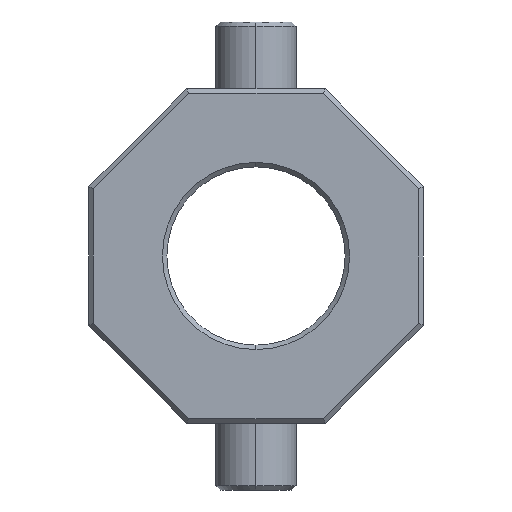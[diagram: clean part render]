
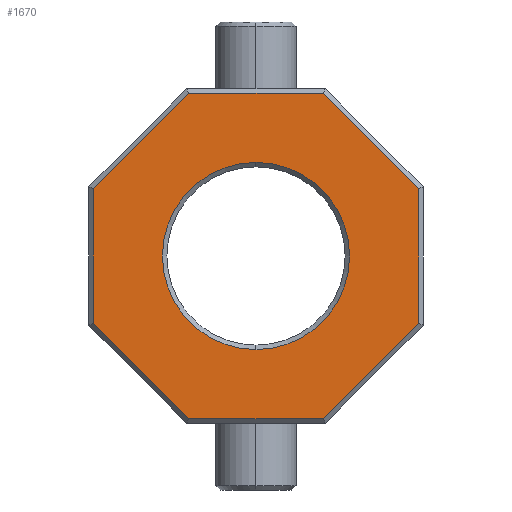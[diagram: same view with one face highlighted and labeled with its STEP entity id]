
A CAD part, left-side view. The second image highlights one B-rep face of the part: STEP entity #1670.
In plain terms, the highlighted planar face has unit normal (-1, 0, 0).
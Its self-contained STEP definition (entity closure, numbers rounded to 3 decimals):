
#5 = FACE_OUTER_BOUND ( 'NONE', #647, .T. ) ;
#14 = VECTOR ( 'NONE', #2017, 1000. ) ;
#35 = VERTEX_POINT ( 'NONE', #1802 ) ;
#45 = VERTEX_POINT ( 'NONE', #64 ) ;
#61 = DIRECTION ( 'NONE',  ( 1., 0., 0. ) ) ;
#64 = CARTESIAN_POINT ( 'NONE',  ( -12.5, -36.5, 15.119 ) ) ;
#83 = AXIS2_PLACEMENT_3D ( 'NONE', #163, #812, #823 ) ;
#118 = EDGE_CURVE ( 'NONE', #1747, #878, #1231, .T. ) ;
#122 = VERTEX_POINT ( 'NONE', #1378 ) ;
#149 = DIRECTION ( 'NONE',  ( 0., -0.707, -0.707 ) ) ;
#163 = CARTESIAN_POINT ( 'NONE',  ( -12.5, 0., 0. ) ) ;
#213 = ORIENTED_EDGE ( 'NONE', *, *, #1218, .T. ) ;
#230 = ORIENTED_EDGE ( 'NONE', *, *, #458, .T. ) ;
#298 = CARTESIAN_POINT ( 'NONE',  ( -12.5, 14.826, -36.793 ) ) ;
#309 = EDGE_CURVE ( 'NONE', #122, #1173, #1934, .T. ) ;
#329 = CARTESIAN_POINT ( 'NONE',  ( -12.5, 36.793, 14.826 ) ) ;
#341 = VECTOR ( 'NONE', #149, 1000. ) ;
#372 = ORIENTED_EDGE ( 'NONE', *, *, #1344, .T. ) ;
#456 = CARTESIAN_POINT ( 'NONE',  ( -12.5, 15.119, 36.5 ) ) ;
#458 = EDGE_CURVE ( 'NONE', #1440, #1290, #1675, .T. ) ;
#501 = VECTOR ( 'NONE', #986, 1000. ) ;
#586 = ORIENTED_EDGE ( 'NONE', *, *, #309, .T. ) ;
#587 = LINE ( 'NONE', #2028, #1246 ) ;
#597 = CARTESIAN_POINT ( 'NONE',  ( -12.5, 0., 0. ) ) ;
#620 = LINE ( 'NONE', #1259, #1214 ) ;
#647 = EDGE_LOOP ( 'NONE', ( #757, #1054, #1163, #1019, #586, #372, #213, #1530 ) ) ;
#686 = VERTEX_POINT ( 'NONE', #1000 ) ;
#750 = LINE ( 'NONE', #1384, #14 ) ;
#757 = ORIENTED_EDGE ( 'NONE', *, *, #1735, .T. ) ;
#785 = EDGE_CURVE ( 'NONE', #923, #686, #1976, .T. ) ;
#812 = DIRECTION ( 'NONE',  ( 1., 0., 0. ) ) ;
#823 = DIRECTION ( 'NONE',  ( 0., 0., -1. ) ) ;
#852 = EDGE_LOOP ( 'NONE', ( #1476, #230 ) ) ;
#878 = VERTEX_POINT ( 'NONE', #1892 ) ;
#923 = VERTEX_POINT ( 'NONE', #1583 ) ;
#986 = DIRECTION ( 'NONE',  ( 0., 1., 0. ) ) ;
#1000 = CARTESIAN_POINT ( 'NONE',  ( -12.5, -36.5, -15.119 ) ) ;
#1019 = ORIENTED_EDGE ( 'NONE', *, *, #1584, .T. ) ;
#1035 = DIRECTION ( 'NONE',  ( 0., -0.707, 0.707 ) ) ;
#1054 = ORIENTED_EDGE ( 'NONE', *, *, #785, .T. ) ;
#1056 = DIRECTION ( 'NONE',  ( 0., 0.707, 0.707 ) ) ;
#1090 = DIRECTION ( 'NONE',  ( 0., 0., -1. ) ) ;
#1105 = AXIS2_PLACEMENT_3D ( 'NONE', #1487, #61, #1858 ) ;
#1108 = VECTOR ( 'NONE', #1254, 1000. ) ;
#1132 = PLANE ( 'NONE',  #83 ) ;
#1146 = FACE_BOUND ( 'NONE', #852, .T. ) ;
#1163 = ORIENTED_EDGE ( 'NONE', *, *, #1968, .T. ) ;
#1173 = VERTEX_POINT ( 'NONE', #456 ) ;
#1214 = VECTOR ( 'NONE', #1736, 1000. ) ;
#1218 = EDGE_CURVE ( 'NONE', #35, #1747, #1870, .T. ) ;
#1223 = EDGE_CURVE ( 'NONE', #1290, #1440, #1907, .T. ) ;
#1227 = CARTESIAN_POINT ( 'NONE',  ( -12.5, -36.793, -14.826 ) ) ;
#1231 = LINE ( 'NONE', #298, #341 ) ;
#1233 = DIRECTION ( 'NONE',  ( 1., 0., 0. ) ) ;
#1246 = VECTOR ( 'NONE', #1056, 1000. ) ;
#1254 = DIRECTION ( 'NONE',  ( 0., 0., -1. ) ) ;
#1259 = CARTESIAN_POINT ( 'NONE',  ( -12.5, -15.533, -36.5 ) ) ;
#1261 = CARTESIAN_POINT ( 'NONE',  ( -12.5, 36.5, -15.533 ) ) ;
#1267 = CARTESIAN_POINT ( 'NONE',  ( -12.5, 36.5, -15.119 ) ) ;
#1290 = VERTEX_POINT ( 'NONE', #1603 ) ;
#1344 = EDGE_CURVE ( 'NONE', #1173, #35, #1772, .T. ) ;
#1376 = AXIS2_PLACEMENT_3D ( 'NONE', #597, #1233, #1090 ) ;
#1378 = CARTESIAN_POINT ( 'NONE',  ( -12.5, -15.119, 36.5 ) ) ;
#1384 = CARTESIAN_POINT ( 'NONE',  ( -12.5, -36.5, 15.533 ) ) ;
#1440 = VERTEX_POINT ( 'NONE', #1958 ) ;
#1456 = CARTESIAN_POINT ( 'NONE',  ( -12.5, 15.533, 36.5 ) ) ;
#1476 = ORIENTED_EDGE ( 'NONE', *, *, #1223, .T. ) ;
#1487 = CARTESIAN_POINT ( 'NONE',  ( -12.5, 0., 0. ) ) ;
#1530 = ORIENTED_EDGE ( 'NONE', *, *, #118, .T. ) ;
#1583 = CARTESIAN_POINT ( 'NONE',  ( -12.5, -15.119, -36.5 ) ) ;
#1584 = EDGE_CURVE ( 'NONE', #45, #122, #587, .T. ) ;
#1590 = DIRECTION ( 'NONE',  ( 0., 0.707, -0.707 ) ) ;
#1603 = CARTESIAN_POINT ( 'NONE',  ( -12.5, 0., 21. ) ) ;
#1640 = VECTOR ( 'NONE', #1035, 1000. ) ;
#1670 = ADVANCED_FACE ( 'NONE', ( #5, #1146 ), #1132, .F. ) ;
#1675 = CIRCLE ( 'NONE', #1105, 21. ) ;
#1735 = EDGE_CURVE ( 'NONE', #878, #923, #620, .T. ) ;
#1736 = DIRECTION ( 'NONE',  ( 0., -1., 0. ) ) ;
#1747 = VERTEX_POINT ( 'NONE', #1267 ) ;
#1772 = LINE ( 'NONE', #329, #2008 ) ;
#1802 = CARTESIAN_POINT ( 'NONE',  ( -12.5, 36.5, 15.119 ) ) ;
#1858 = DIRECTION ( 'NONE',  ( 0., 0., -1. ) ) ;
#1870 = LINE ( 'NONE', #1261, #1108 ) ;
#1892 = CARTESIAN_POINT ( 'NONE',  ( -12.5, 15.119, -36.5 ) ) ;
#1907 = CIRCLE ( 'NONE', #1376, 21. ) ;
#1934 = LINE ( 'NONE', #1456, #501 ) ;
#1958 = CARTESIAN_POINT ( 'NONE',  ( -12.5, 0., -21. ) ) ;
#1968 = EDGE_CURVE ( 'NONE', #686, #45, #750, .T. ) ;
#1976 = LINE ( 'NONE', #1227, #1640 ) ;
#2008 = VECTOR ( 'NONE', #1590, 1000. ) ;
#2017 = DIRECTION ( 'NONE',  ( 0., 0., 1. ) ) ;
#2028 = CARTESIAN_POINT ( 'NONE',  ( -12.5, -14.826, 36.793 ) ) ;
